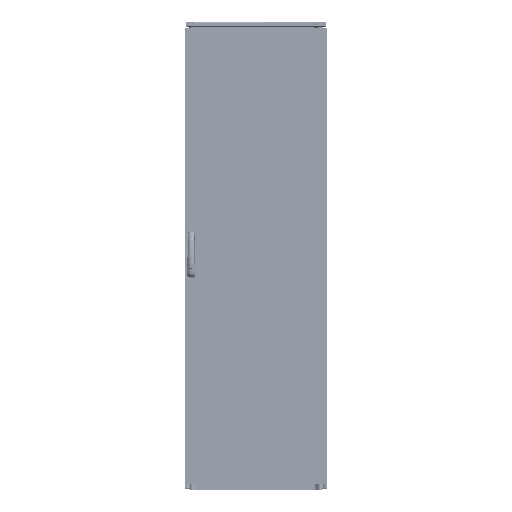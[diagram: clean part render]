
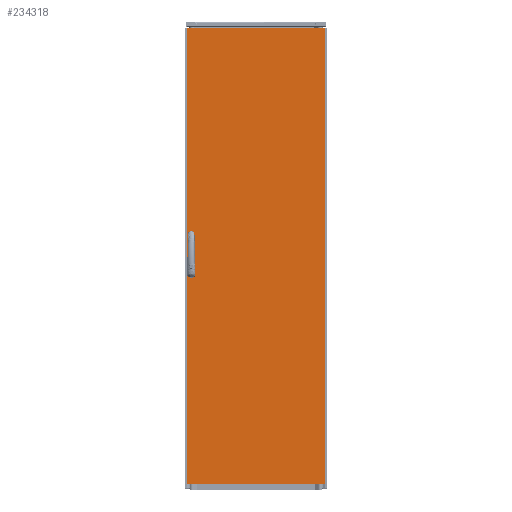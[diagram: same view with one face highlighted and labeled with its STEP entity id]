
A CAD part, top view. The second image highlights one B-rep face of the part: STEP entity #234318.
In plain terms, the highlighted planar face has unit normal (0, 0, 1).
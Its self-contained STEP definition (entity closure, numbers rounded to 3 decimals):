
#1312 = AXIS2_PLACEMENT_3D ( 'NONE', #231779, #62550, #30133 ) ;
#2055 = VERTEX_POINT ( 'NONE', #238811 ) ;
#4631 = DIRECTION ( 'NONE',  ( 0., 1., 0. ) ) ;
#5018 = DIRECTION ( 'NONE',  ( 0., 0., 1. ) ) ;
#6214 = EDGE_CURVE ( 'NONE', #151663, #320435, #84667, .T. ) ;
#8030 = AXIS2_PLACEMENT_3D ( 'NONE', #162443, #237290, #34036 ) ;
#9883 = DIRECTION ( 'NONE',  ( 0., -1., 0. ) ) ;
#13679 = CARTESIAN_POINT ( 'NONE',  ( 28.7, 947.75, 19. ) ) ;
#15835 = ORIENTED_EDGE ( 'NONE', *, *, #198965, .F. ) ;
#28939 = LINE ( 'NONE', #154147, #89013 ) ;
#30133 = DIRECTION ( 'NONE',  ( -1., 0., 0. ) ) ;
#30466 = EDGE_CURVE ( 'NONE', #36457, #151663, #293854, .T. ) ;
#32938 = CARTESIAN_POINT ( 'NONE',  ( 0., 1957., 19. ) ) ;
#34036 = DIRECTION ( 'NONE',  ( 1., 0., 0. ) ) ;
#34958 = AXIS2_PLACEMENT_3D ( 'NONE', #111394, #5018, #174230 ) ;
#36457 = VERTEX_POINT ( 'NONE', #13679 ) ;
#37564 = ORIENTED_EDGE ( 'NONE', *, *, #301935, .T. ) ;
#38166 = EDGE_CURVE ( 'NONE', #229324, #64649, #179435, .T. ) ;
#38588 = DIRECTION ( 'NONE',  ( 0., 0., 1. ) ) ;
#39220 = AXIS2_PLACEMENT_3D ( 'NONE', #279427, #38588, #82575 ) ;
#41757 = VERTEX_POINT ( 'NONE', #167038 ) ;
#43051 = LINE ( 'NONE', #171488, #267865 ) ;
#48272 = VECTOR ( 'NONE', #251014, 1000. ) ;
#51455 = CARTESIAN_POINT ( 'NONE',  ( 3., 1957., 19. ) ) ;
#57540 = CIRCLE ( 'NONE', #67734, 9.5 ) ;
#58814 = CARTESIAN_POINT ( 'NONE',  ( 28.7, 1060.25, 19. ) ) ;
#59858 = EDGE_CURVE ( 'NONE', #103049, #297258, #320547, .T. ) ;
#62008 = CARTESIAN_POINT ( 'NONE',  ( 592., 1960., 19. ) ) ;
#62550 = DIRECTION ( 'NONE',  ( 0., 0., -1. ) ) ;
#63806 = ORIENTED_EDGE ( 'NONE', *, *, #308874, .T. ) ;
#64649 = VERTEX_POINT ( 'NONE', #144420 ) ;
#67734 = AXIS2_PLACEMENT_3D ( 'NONE', #134354, #157153, #204356 ) ;
#68482 = VECTOR ( 'NONE', #109323, 1000. ) ;
#73297 = EDGE_LOOP ( 'NONE', ( #188907, #218754, #105914, #116571 ) ) ;
#74226 = CARTESIAN_POINT ( 'NONE',  ( 9.7, 1012.25, 19. ) ) ;
#79510 = CARTESIAN_POINT ( 'NONE',  ( 9.7, 947.75, 19. ) ) ;
#82575 = DIRECTION ( 'NONE',  ( 1., 0., 0. ) ) ;
#84667 = LINE ( 'NONE', #164282, #123498 ) ;
#86020 = EDGE_LOOP ( 'NONE', ( #167943, #229495, #15835, #122476 ) ) ;
#86261 = DIRECTION ( 'NONE',  ( 0., -1., 0. ) ) ;
#89013 = VECTOR ( 'NONE', #108592, 1000. ) ;
#95525 = EDGE_CURVE ( 'NONE', #297258, #229324, #227483, .T. ) ;
#103049 = VERTEX_POINT ( 'NONE', #74226 ) ;
#104614 = CARTESIAN_POINT ( 'NONE',  ( 3., 1960., 19. ) ) ;
#105914 = ORIENTED_EDGE ( 'NONE', *, *, #95525, .F. ) ;
#108592 = DIRECTION ( 'NONE',  ( 1., 0., 0. ) ) ;
#109323 = DIRECTION ( 'NONE',  ( -1., 0., 0. ) ) ;
#111394 = CARTESIAN_POINT ( 'NONE',  ( 19.2, 1012.25, 19. ) ) ;
#116571 = ORIENTED_EDGE ( 'NONE', *, *, #59858, .F. ) ;
#119127 = ORIENTED_EDGE ( 'NONE', *, *, #131391, .T. ) ;
#122476 = ORIENTED_EDGE ( 'NONE', *, *, #212870, .F. ) ;
#123498 = VECTOR ( 'NONE', #9883, 1000. ) ;
#131391 = EDGE_CURVE ( 'NONE', #143084, #165559, #275473, .T. ) ;
#133721 = LINE ( 'NONE', #32938, #68482 ) ;
#134354 = CARTESIAN_POINT ( 'NONE',  ( 19.2, 899.75, 19. ) ) ;
#143084 = VERTEX_POINT ( 'NONE', #51455 ) ;
#144420 = CARTESIAN_POINT ( 'NONE',  ( 9.7, 1060.25, 19. ) ) ;
#147427 = VECTOR ( 'NONE', #86261, 1000. ) ;
#151663 = VERTEX_POINT ( 'NONE', #79510 ) ;
#154147 = CARTESIAN_POINT ( 'NONE',  ( 0., 3., 19. ) ) ;
#155336 = FACE_BOUND ( 'NONE', #73297, .T. ) ;
#156417 = LINE ( 'NONE', #62008, #239459 ) ;
#157153 = DIRECTION ( 'NONE',  ( 0., 0., 1. ) ) ;
#162443 = CARTESIAN_POINT ( 'NONE',  ( 19.2, 947.75, 19. ) ) ;
#164282 = CARTESIAN_POINT ( 'NONE',  ( 9.7, 947.75, 19. ) ) ;
#165559 = VERTEX_POINT ( 'NONE', #315285 ) ;
#167038 = CARTESIAN_POINT ( 'NONE',  ( 28.7, 899.75, 19. ) ) ;
#167943 = ORIENTED_EDGE ( 'NONE', *, *, #6214, .F. ) ;
#171488 = CARTESIAN_POINT ( 'NONE',  ( 28.7, 947.75, 19. ) ) ;
#174230 = DIRECTION ( 'NONE',  ( 1., 0., 0. ) ) ;
#179435 = CIRCLE ( 'NONE', #39220, 9.5 ) ;
#186216 = FACE_BOUND ( 'NONE', #86020, .T. ) ;
#188907 = ORIENTED_EDGE ( 'NONE', *, *, #313134, .F. ) ;
#191882 = CARTESIAN_POINT ( 'NONE',  ( 9.7, 1060.25, 19. ) ) ;
#198965 = EDGE_CURVE ( 'NONE', #41757, #36457, #43051, .T. ) ;
#204356 = DIRECTION ( 'NONE',  ( 1., 0., 0. ) ) ;
#208978 = FACE_OUTER_BOUND ( 'NONE', #268645, .T. ) ;
#212870 = EDGE_CURVE ( 'NONE', #320435, #41757, #57540, .T. ) ;
#218754 = ORIENTED_EDGE ( 'NONE', *, *, #38166, .F. ) ;
#224094 = ORIENTED_EDGE ( 'NONE', *, *, #245740, .T. ) ;
#227483 = LINE ( 'NONE', #247055, #242440 ) ;
#229324 = VERTEX_POINT ( 'NONE', #58814 ) ;
#229495 = ORIENTED_EDGE ( 'NONE', *, *, #30466, .F. ) ;
#231779 = CARTESIAN_POINT ( 'NONE',  ( 0., 1960., 19. ) ) ;
#232864 = DIRECTION ( 'NONE',  ( 0., 1., 0. ) ) ;
#234318 = ADVANCED_FACE ( 'NONE', ( #186216, #155336, #208978 ), #285419, .F. ) ;
#237290 = DIRECTION ( 'NONE',  ( 0., 0., 1. ) ) ;
#238811 = CARTESIAN_POINT ( 'NONE',  ( 592., 1957., 19. ) ) ;
#239091 = LINE ( 'NONE', #191882, #147427 ) ;
#239459 = VECTOR ( 'NONE', #232864, 1000. ) ;
#242440 = VECTOR ( 'NONE', #4631, 1000. ) ;
#245740 = EDGE_CURVE ( 'NONE', #165559, #288357, #28939, .T. ) ;
#247055 = CARTESIAN_POINT ( 'NONE',  ( 28.7, 1060.25, 19. ) ) ;
#251014 = DIRECTION ( 'NONE',  ( 0., -1., 0. ) ) ;
#267483 = DIRECTION ( 'NONE',  ( 0., 1., 0. ) ) ;
#267865 = VECTOR ( 'NONE', #267483, 1000. ) ;
#268645 = EDGE_LOOP ( 'NONE', ( #63806, #37564, #119127, #224094 ) ) ;
#275473 = LINE ( 'NONE', #104614, #48272 ) ;
#279427 = CARTESIAN_POINT ( 'NONE',  ( 19.2, 1060.25, 19. ) ) ;
#285419 = PLANE ( 'NONE',  #1312 ) ;
#288357 = VERTEX_POINT ( 'NONE', #291382 ) ;
#291382 = CARTESIAN_POINT ( 'NONE',  ( 592., 3., 19. ) ) ;
#293854 = CIRCLE ( 'NONE', #8030, 9.5 ) ;
#297258 = VERTEX_POINT ( 'NONE', #313053 ) ;
#301935 = EDGE_CURVE ( 'NONE', #2055, #143084, #133721, .T. ) ;
#305281 = CARTESIAN_POINT ( 'NONE',  ( 9.7, 899.75, 19. ) ) ;
#308874 = EDGE_CURVE ( 'NONE', #288357, #2055, #156417, .T. ) ;
#313053 = CARTESIAN_POINT ( 'NONE',  ( 28.7, 1012.25, 19. ) ) ;
#313134 = EDGE_CURVE ( 'NONE', #64649, #103049, #239091, .T. ) ;
#315285 = CARTESIAN_POINT ( 'NONE',  ( 3., 3., 19. ) ) ;
#320435 = VERTEX_POINT ( 'NONE', #305281 ) ;
#320547 = CIRCLE ( 'NONE', #34958, 9.5 ) ;
